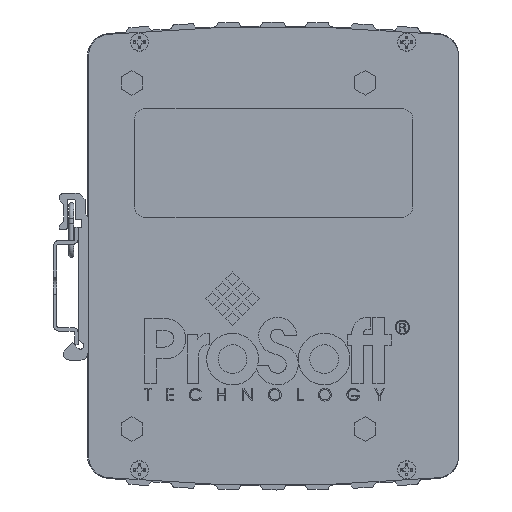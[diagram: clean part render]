
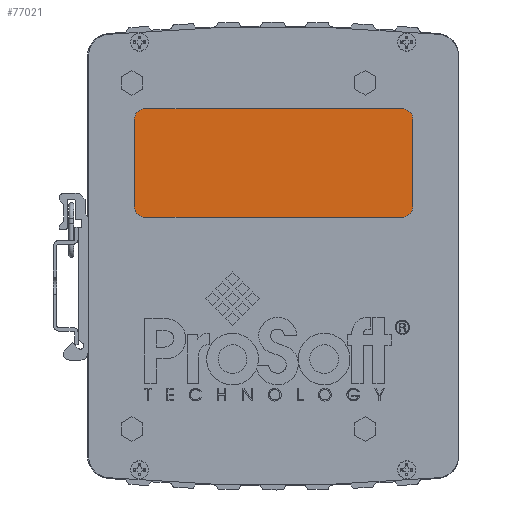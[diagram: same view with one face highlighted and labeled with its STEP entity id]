
A CAD part, front view. The second image highlights one B-rep face of the part: STEP entity #77021.
In plain terms, the highlighted planar face has unit normal (0, -1, 0).
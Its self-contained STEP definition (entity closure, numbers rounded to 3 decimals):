
#3029=PLANE('',#82075);
#4938=CIRCLE('',#82064,3.175);
#4939=CIRCLE('',#82067,3.175);
#4940=CIRCLE('',#82070,3.175);
#4941=CIRCLE('',#82073,3.175);
#12079=LINE('',#131730,#20574);
#12082=LINE('',#131738,#20577);
#12085=LINE('',#131746,#20580);
#12087=LINE('',#131752,#20582);
#20574=VECTOR('',#98339,1000.);
#20577=VECTOR('',#98348,1000.);
#20580=VECTOR('',#98357,1000.);
#20582=VECTOR('',#98365,1000.);
#38568=ORIENTED_EDGE('',*,*,#52907,.T.);
#38569=ORIENTED_EDGE('',*,*,#52910,.T.);
#38570=ORIENTED_EDGE('',*,*,#52912,.T.);
#38571=ORIENTED_EDGE('',*,*,#52914,.T.);
#38572=ORIENTED_EDGE('',*,*,#52916,.T.);
#38573=ORIENTED_EDGE('',*,*,#52918,.T.);
#38574=ORIENTED_EDGE('',*,*,#52920,.T.);
#38575=ORIENTED_EDGE('',*,*,#52921,.T.);
#52907=EDGE_CURVE('',#61264,#61263,#4938,.T.);
#52910=EDGE_CURVE('',#61263,#61265,#12079,.T.);
#52912=EDGE_CURVE('',#61265,#61266,#4939,.T.);
#52914=EDGE_CURVE('',#61266,#61267,#12082,.T.);
#52916=EDGE_CURVE('',#61267,#61268,#4940,.T.);
#52918=EDGE_CURVE('',#61268,#61269,#12085,.T.);
#52920=EDGE_CURVE('',#61269,#61270,#4941,.T.);
#52921=EDGE_CURVE('',#61270,#61264,#12087,.T.);
#61263=VERTEX_POINT('',#131723);
#61264=VERTEX_POINT('',#131725);
#61265=VERTEX_POINT('',#131729);
#61266=VERTEX_POINT('',#131733);
#61267=VERTEX_POINT('',#131737);
#61268=VERTEX_POINT('',#131741);
#61269=VERTEX_POINT('',#131745);
#61270=VERTEX_POINT('',#131749);
#67249=EDGE_LOOP('',(#38568,#38569,#38570,#38571,#38572,#38573,#38574,#38575));
#71931=FACE_BOUND('',#67249,.T.);
#77021=ADVANCED_FACE('',(#71931),#3029,.T.);
#82064=AXIS2_PLACEMENT_3D('',#131724,#98333,#98334);
#82067=AXIS2_PLACEMENT_3D('',#131734,#98343,#98344);
#82070=AXIS2_PLACEMENT_3D('',#131742,#98352,#98353);
#82073=AXIS2_PLACEMENT_3D('',#131750,#98361,#98362);
#82075=AXIS2_PLACEMENT_3D('',#131753,#98366,#98367);
#98333=DIRECTION('',(0.,-1.,0.));
#98334=DIRECTION('',(-1.,0.,0.));
#98339=DIRECTION('',(0.,0.,1.));
#98343=DIRECTION('',(0.,-1.,0.));
#98344=DIRECTION('',(1.,0.,0.));
#98348=DIRECTION('',(-1.,0.,0.));
#98352=DIRECTION('',(0.,-1.,0.));
#98353=DIRECTION('',(1.,0.,0.));
#98357=DIRECTION('',(0.,0.,-1.));
#98361=DIRECTION('',(0.,-1.,0.));
#98362=DIRECTION('',(1.,0.,0.));
#98365=DIRECTION('',(1.,0.,0.));
#98366=DIRECTION('',(0.,-1.,0.));
#98367=DIRECTION('',(0.,0.,-1.));
#131723=CARTESIAN_POINT('',(41.79,-26.1,14.758));
#131724=CARTESIAN_POINT('',(38.615,-26.1,14.758));
#131725=CARTESIAN_POINT('',(38.615,-26.1,11.583));
#131729=CARTESIAN_POINT('',(41.79,-26.1,40.92));
#131730=CARTESIAN_POINT('',(41.79,-26.1,14.758));
#131733=CARTESIAN_POINT('',(38.615,-26.1,44.095));
#131734=CARTESIAN_POINT('',(38.615,-26.1,40.92));
#131737=CARTESIAN_POINT('',(-38.347,-26.1,44.095));
#131738=CARTESIAN_POINT('',(38.615,-26.1,44.095));
#131741=CARTESIAN_POINT('',(-41.522,-26.1,40.92));
#131742=CARTESIAN_POINT('',(-38.347,-26.1,40.92));
#131745=CARTESIAN_POINT('',(-41.522,-26.1,14.758));
#131746=CARTESIAN_POINT('',(-41.522,-26.1,40.92));
#131749=CARTESIAN_POINT('',(-38.347,-26.1,11.583));
#131750=CARTESIAN_POINT('',(-38.347,-26.1,14.758));
#131752=CARTESIAN_POINT('',(-38.347,-26.1,11.583));
#131753=CARTESIAN_POINT('',(38.615,-26.1,14.758));
